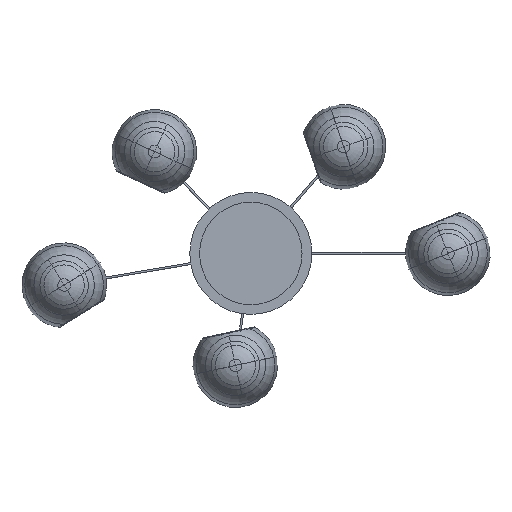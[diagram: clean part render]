
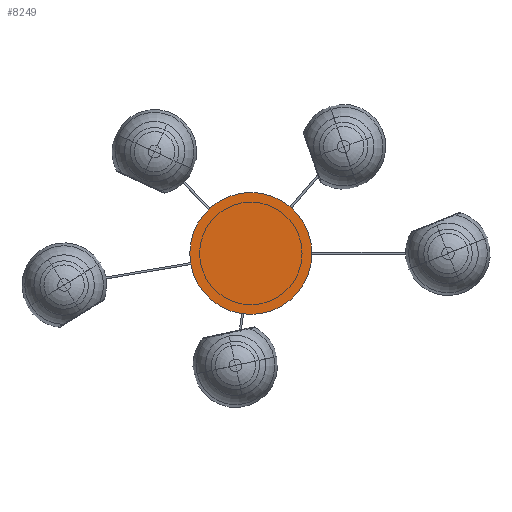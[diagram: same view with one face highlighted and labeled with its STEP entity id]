
A CAD part, front view. The second image highlights one B-rep face of the part: STEP entity #8249.
In plain terms, the highlighted planar face has unit normal (0, -1, 0).
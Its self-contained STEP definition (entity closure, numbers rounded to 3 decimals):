
#325 = DIRECTION ( 'NONE',  ( 0., -1., 0. ) ) ;
#1776 = AXIS2_PLACEMENT_3D ( 'NONE', #12059, #325, #2579 ) ;
#2579 = DIRECTION ( 'NONE',  ( 0., 0., -1. ) ) ;
#2605 = AXIS2_PLACEMENT_3D ( 'NONE', #6246, #11804, #15485 ) ;
#3806 = DIRECTION ( 'NONE',  ( 0., 0., -1. ) ) ;
#3965 = CARTESIAN_POINT ( 'NONE',  ( 0., -15., -125. ) ) ;
#4643 = EDGE_CURVE ( 'NONE', #6908, #8265, #5132, .T. ) ;
#4701 = EDGE_CURVE ( 'NONE', #8265, #6908, #13173, .T. ) ;
#5132 = CIRCLE ( 'NONE', #2605, 125. ) ;
#5500 = ORIENTED_EDGE ( 'NONE', *, *, #4701, .T. ) ;
#6189 = CARTESIAN_POINT ( 'NONE',  ( 0., -15., -125. ) ) ;
#6246 = CARTESIAN_POINT ( 'NONE',  ( 0., -15., 0. ) ) ;
#6587 = DIRECTION ( 'NONE',  ( 0., -1., 0. ) ) ;
#6749 = FACE_OUTER_BOUND ( 'NONE', #16998, .T. ) ;
#6800 = AXIS2_PLACEMENT_3D ( 'NONE', #3965, #6587, #3806 ) ;
#6908 = VERTEX_POINT ( 'NONE', #6189 ) ;
#7807 = CARTESIAN_POINT ( 'NONE',  ( 0., -15., 125. ) ) ;
#8249 = ADVANCED_FACE ( 'NONE', ( #6749 ), #16073, .T. ) ;
#8265 = VERTEX_POINT ( 'NONE', #7807 ) ;
#11804 = DIRECTION ( 'NONE',  ( 0., -1., 0. ) ) ;
#12059 = CARTESIAN_POINT ( 'NONE',  ( 0., -15., 0. ) ) ;
#13173 = CIRCLE ( 'NONE', #1776, 125. ) ;
#15485 = DIRECTION ( 'NONE',  ( 0., 0., -1. ) ) ;
#15669 = ORIENTED_EDGE ( 'NONE', *, *, #4643, .T. ) ;
#16073 = PLANE ( 'NONE',  #6800 ) ;
#16998 = EDGE_LOOP ( 'NONE', ( #15669, #5500 ) ) ;
